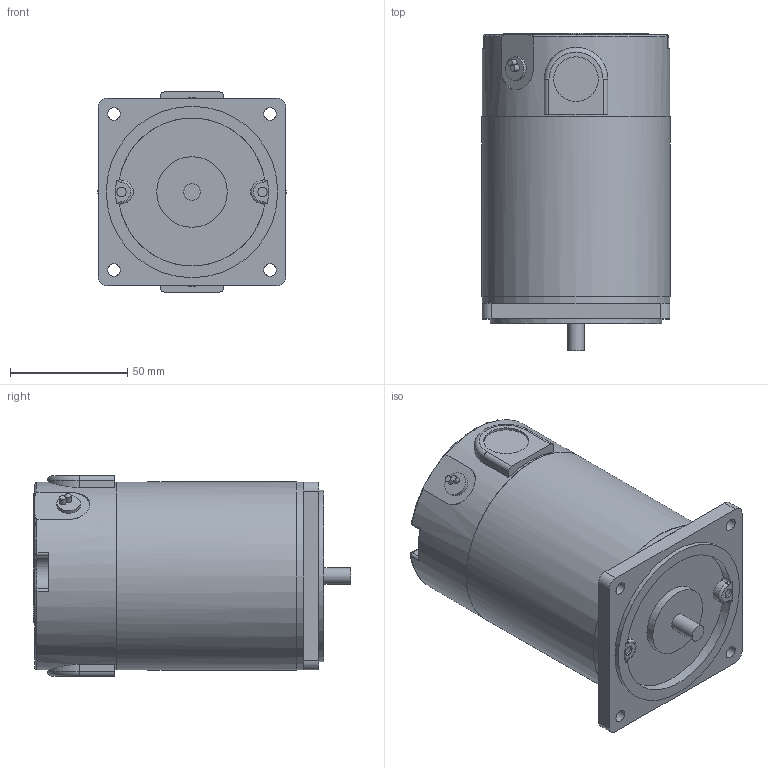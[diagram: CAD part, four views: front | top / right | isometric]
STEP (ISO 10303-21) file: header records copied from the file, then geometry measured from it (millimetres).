
FILE_DESCRIPTION((''),'2;1');
FILE_NAME('E:\2공장-도면\3D\표준형 3D(민규)\step file\K8DG40N.stp','2014-11-06T14:04:53',('AHN'),(''),'Autodesk Inventor 2012','Autodesk Inventor 2012','');
FILE_SCHEMA(('CONFIG_CONTROL_DESIGN'));
Length unit declared in the file: millimetre
Products named in the file (1): K8DG40N
Bounding box: 80.1 x 135 x 85.31 mm (x, y, z)
Volume: 617641.4 mm3; surface area: 47155.3 mm2
Topology: 1 solids, 1 shells, 151 faces, 352 edges, 223 vertices
Faces by surface type: plane 70, cylinder 64, torus 13, sphere 4
Full cylindrical faces by diameter (mm): 2.6 x2, 4 x2, 5.3 x4, 7.2 x1, 10 x1, 19 x2, 30 x2, 73 x1, 80 x2, 80.1 x1
Entity records: 4372 total; most frequent: CARTESIAN_POINT 849, DIRECTION 778, ORIENTED_EDGE 664, EDGE_CURVE 332, AXIS2_PLACEMENT_3D 307, VERTEX_POINT 220, EDGE_LOOP 197, VECTOR 164
